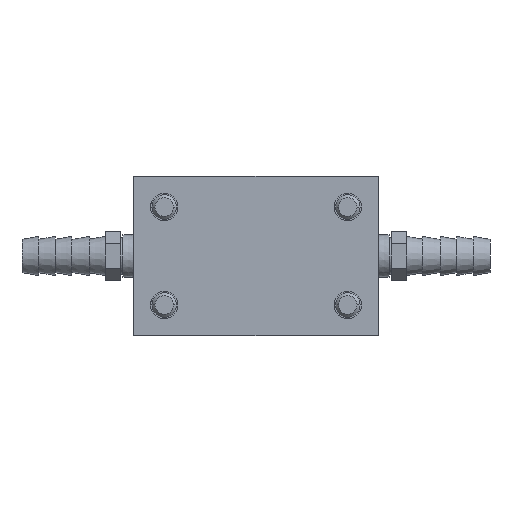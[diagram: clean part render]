
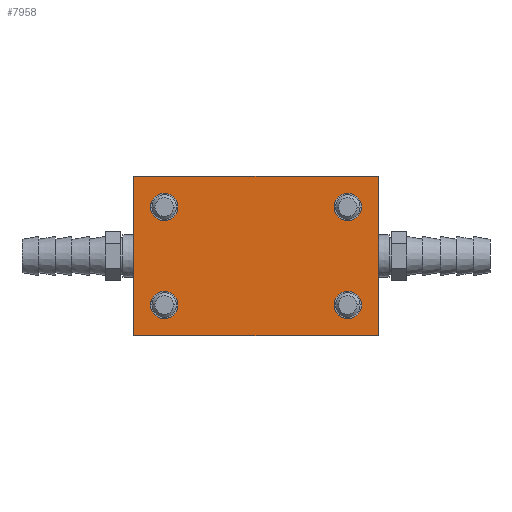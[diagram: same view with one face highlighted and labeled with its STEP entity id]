
A CAD part, left-side view. The second image highlights one B-rep face of the part: STEP entity #7958.
In plain terms, the highlighted planar face has unit normal (-1, 0, 0).
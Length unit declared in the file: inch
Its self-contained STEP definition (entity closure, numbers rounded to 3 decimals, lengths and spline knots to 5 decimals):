
#7696=CARTESIAN_POINT('',(-3.625,-0.9375,-0.5));
#7697=DIRECTION('',(1.,0.,0.));
#7698=DIRECTION('',(0.,-1.,0.));
#7699=AXIS2_PLACEMENT_3D('',#7696,#7697,#7698);
#7701=CARTESIAN_POINT('',(-3.625,-0.9375,-0.5));
#7702=DIRECTION('',(1.,0.,0.));
#7703=DIRECTION('',(0.,1.,0.));
#7704=AXIS2_PLACEMENT_3D('',#7701,#7702,#7703);
#7706=CARTESIAN_POINT('',(-3.625,0.9375,-0.5));
#7707=DIRECTION('',(1.,0.,0.));
#7708=DIRECTION('',(0.,-1.,0.));
#7709=AXIS2_PLACEMENT_3D('',#7706,#7707,#7708);
#7711=CARTESIAN_POINT('',(-3.625,0.9375,-0.5));
#7712=DIRECTION('',(1.,0.,0.));
#7713=DIRECTION('',(0.,1.,0.));
#7714=AXIS2_PLACEMENT_3D('',#7711,#7712,#7713);
#7716=CARTESIAN_POINT('',(-3.625,0.9375,0.5));
#7717=DIRECTION('',(1.,0.,0.));
#7718=DIRECTION('',(0.,-1.,0.));
#7719=AXIS2_PLACEMENT_3D('',#7716,#7717,#7718);
#7721=CARTESIAN_POINT('',(-3.625,0.9375,0.5));
#7722=DIRECTION('',(1.,0.,0.));
#7723=DIRECTION('',(0.,1.,0.));
#7724=AXIS2_PLACEMENT_3D('',#7721,#7722,#7723);
#7726=CARTESIAN_POINT('',(-3.625,-0.9375,0.5));
#7727=DIRECTION('',(1.,0.,0.));
#7728=DIRECTION('',(0.,-1.,0.));
#7729=AXIS2_PLACEMENT_3D('',#7726,#7727,#7728);
#7731=CARTESIAN_POINT('',(-3.625,-0.9375,0.5));
#7732=DIRECTION('',(1.,0.,0.));
#7733=DIRECTION('',(0.,1.,0.));
#7734=AXIS2_PLACEMENT_3D('',#7731,#7732,#7733);
#7828=DIRECTION('',(0.,0.,-1.));
#7829=VECTOR('',#7828,1.625);
#7830=CARTESIAN_POINT('',(-3.625,-1.25,0.8125));
#7831=LINE('',#7830,#7829);
#7836=DIRECTION('',(0.,1.,0.));
#7837=VECTOR('',#7836,2.5);
#7838=CARTESIAN_POINT('',(-3.625,-1.25,-0.8125));
#7839=LINE('',#7838,#7837);
#7840=DIRECTION('',(0.,0.,1.));
#7841=VECTOR('',#7840,1.625);
#7842=CARTESIAN_POINT('',(-3.625,1.25,-0.8125));
#7843=LINE('',#7842,#7841);
#7848=DIRECTION('',(0.,-1.,0.));
#7849=VECTOR('',#7848,2.5);
#7850=CARTESIAN_POINT('',(-3.625,1.25,0.8125));
#7851=LINE('',#7850,#7849);
#7860=CARTESIAN_POINT('',(-3.625,-1.25,-0.8125));
#7861=CARTESIAN_POINT('',(-3.625,1.25,-0.8125));
#7862=VERTEX_POINT('',#7860);
#7863=VERTEX_POINT('',#7861);
#7866=CARTESIAN_POINT('',(-3.625,-1.25,0.8125));
#7867=VERTEX_POINT('',#7866);
#7868=CARTESIAN_POINT('',(-3.625,1.25,0.8125));
#7869=VERTEX_POINT('',#7868);
#7872=CARTESIAN_POINT('',(-3.625,1.07813,0.5));
#7874=VERTEX_POINT('',#7872);
#7876=CARTESIAN_POINT('',(-3.625,0.79688,0.5));
#7878=VERTEX_POINT('',#7876);
#7880=CARTESIAN_POINT('',(-3.625,-0.79688,0.5));
#7882=VERTEX_POINT('',#7880);
#7884=CARTESIAN_POINT('',(-3.625,-1.07813,0.5));
#7886=VERTEX_POINT('',#7884);
#7888=CARTESIAN_POINT('',(-3.625,1.07813,-0.5));
#7890=VERTEX_POINT('',#7888);
#7892=CARTESIAN_POINT('',(-3.625,0.79688,-0.5));
#7894=VERTEX_POINT('',#7892);
#7896=CARTESIAN_POINT('',(-3.625,-0.79688,-0.5));
#7898=VERTEX_POINT('',#7896);
#7900=CARTESIAN_POINT('',(-3.625,-1.07813,-0.5));
#7902=VERTEX_POINT('',#7900);
#7920=CARTESIAN_POINT('',(-3.625,0.,0.));
#7921=DIRECTION('',(1.,0.,0.));
#7922=DIRECTION('',(0.,-1.,0.));
#7923=AXIS2_PLACEMENT_3D('',#7920,#7921,#7922);
#7924=PLANE('',#7923);
#7926=ORIENTED_EDGE('',*,*,#7925,.T.);
#7928=ORIENTED_EDGE('',*,*,#7927,.T.);
#7930=ORIENTED_EDGE('',*,*,#7929,.T.);
#7932=ORIENTED_EDGE('',*,*,#7931,.T.);
#7933=EDGE_LOOP('',(#7926,#7928,#7930,#7932));
#7934=FACE_OUTER_BOUND('',#7933,.F.);
#7936=ORIENTED_EDGE('',*,*,#7935,.F.);
#7938=ORIENTED_EDGE('',*,*,#7937,.F.);
#7939=EDGE_LOOP('',(#7936,#7938));
#7940=FACE_BOUND('',#7939,.F.);
#7941=ORIENTED_EDGE('',*,*,#7909,.F.);
#7943=ORIENTED_EDGE('',*,*,#7942,.F.);
#7944=EDGE_LOOP('',(#7941,#7943));
#7945=FACE_BOUND('',#7944,.F.);
#7947=ORIENTED_EDGE('',*,*,#7946,.F.);
#7949=ORIENTED_EDGE('',*,*,#7948,.F.);
#7950=EDGE_LOOP('',(#7947,#7949));
#7951=FACE_BOUND('',#7950,.F.);
#7953=ORIENTED_EDGE('',*,*,#7952,.F.);
#7955=ORIENTED_EDGE('',*,*,#7954,.F.);
#7956=EDGE_LOOP('',(#7953,#7955));
#7957=FACE_BOUND('',#7956,.F.);
#7700=CIRCLE('',#7699,0.14063);
#7705=CIRCLE('',#7704,0.14063);
#7710=CIRCLE('',#7709,0.14063);
#7715=CIRCLE('',#7714,0.14063);
#7720=CIRCLE('',#7719,0.14063);
#7725=CIRCLE('',#7724,0.14063);
#7730=CIRCLE('',#7729,0.14063);
#7735=CIRCLE('',#7734,0.14063);
#7909=EDGE_CURVE('',#7878,#7874,#7720,.T.);
#7925=EDGE_CURVE('',#7862,#7863,#7839,.T.);
#7927=EDGE_CURVE('',#7863,#7869,#7843,.T.);
#7929=EDGE_CURVE('',#7869,#7867,#7851,.T.);
#7931=EDGE_CURVE('',#7867,#7862,#7831,.T.);
#7935=EDGE_CURVE('',#7894,#7890,#7710,.T.);
#7937=EDGE_CURVE('',#7890,#7894,#7715,.T.);
#7942=EDGE_CURVE('',#7874,#7878,#7725,.T.);
#7946=EDGE_CURVE('',#7886,#7882,#7730,.T.);
#7948=EDGE_CURVE('',#7882,#7886,#7735,.T.);
#7952=EDGE_CURVE('',#7902,#7898,#7700,.T.);
#7954=EDGE_CURVE('',#7898,#7902,#7705,.T.);
#7958=ADVANCED_FACE('',(#7934,#7940,#7945,#7951,#7957),#7924,.F.);
